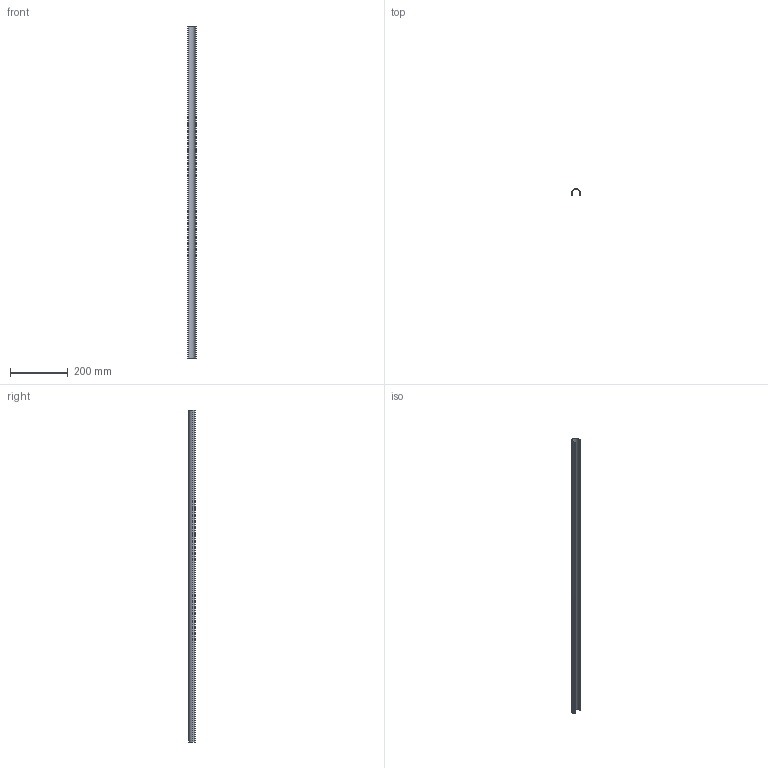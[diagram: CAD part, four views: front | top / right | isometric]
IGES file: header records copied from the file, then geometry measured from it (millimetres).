
Start section: SolidWorks IGES file using analytic representation for surfaces
Global section: file name: C:\Users\Bernhard.Fink\OneDrive - Zumtobel Group\Desktop\16208899_00_1150mm.IGS; native system: SolidWorks 2020; preprocessor: SolidWorks 2020; author: Bernhard.Fink; date: 220831.065852; units: millimetre
Bounding box: 28.5 x 22 x 1150 mm (x, y, z)
Surface area: 144300.7 mm2 (no closed solid volume)
Topology: 0 solids, 0 shells, 23 faces, 288 edges, 288 vertices
Faces by surface type: bspline 12, revolution 11
